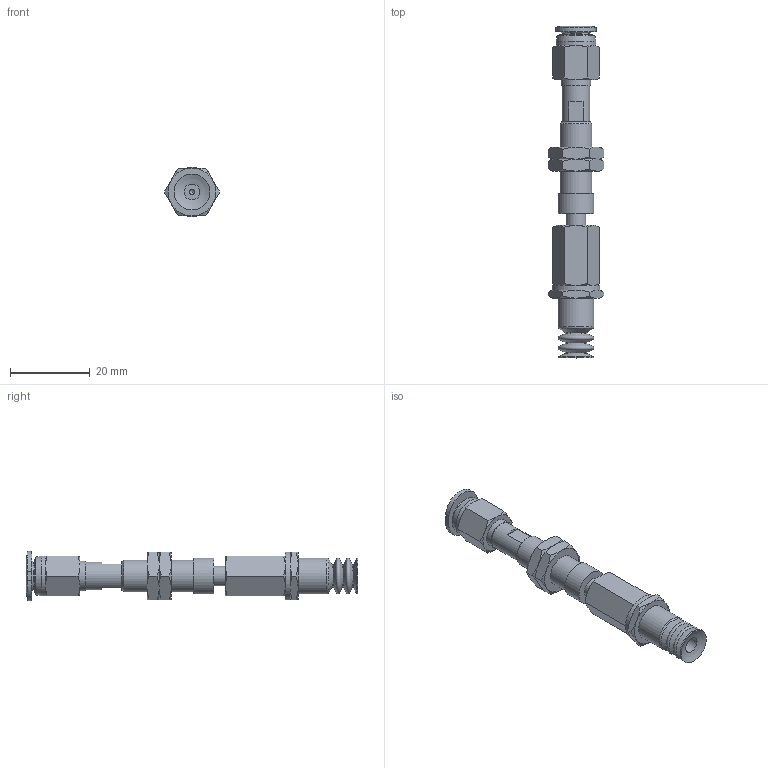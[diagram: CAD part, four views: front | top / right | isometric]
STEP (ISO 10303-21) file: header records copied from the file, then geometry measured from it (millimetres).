
FILE_DESCRIPTION(('STEP AP203'),'1');
FILE_NAME('-O.stp','2025-08-27T02:05:08',(' '),(' '),'Spatial InterOp 3D',' ',' ');
FILE_SCHEMA(('CONFIG_CONTROL_DESIGN'));
Length unit declared in the file: millimetre
Products named in the file (8): BNABPCTS-10-3-※-O; ADAPTER; NAPCTS-10-3-MBODY; Adapter_napc-10-T; Nut napc_s-10-3; NAPCTS-10-3-FBODY; BPCG-10-※; PC-C_06-M5
Assembly tree (8 placements, depth 2):
  BNABPCTS-10-3-※-O
    ADAPTER
    NAPCTS-10-3-MBODY
    Adapter_napc-10-T
    Nut napc_s-10-3  x2
    NAPCTS-10-3-FBODY
    BPCG-10-※
    PC-C_06-M5
Bounding box: 13.86 x 83.18 x 12.4 mm (x, y, z)
Volume: 4324 mm3; surface area: 5817.5 mm2
Topology: 7 solids, 10 shells, 193 faces, 389 edges, 228 vertices
Faces by surface type: cone 80, plane 66, cylinder 28, torus 10, bspline 4, revolution 3, sphere 2
Full cylindrical faces by diameter (mm): 1.25 x1, 4 x3, 4.134 x2, 5 x8, 7 x2, 7.188 x2, 7.4 x1, 8 x1, 8.2 x1, 9 x3, 10 x1, 12 x1
Entity records: 5080 total; most frequent: CARTESIAN_POINT 1543, DIRECTION 655, ORIENTED_EDGE 554, AXIS2_PLACEMENT_3D 304, EDGE_CURVE 279, EDGE_LOOP 250, VERTEX_POINT 196, FACE_OUTER_BOUND 147
